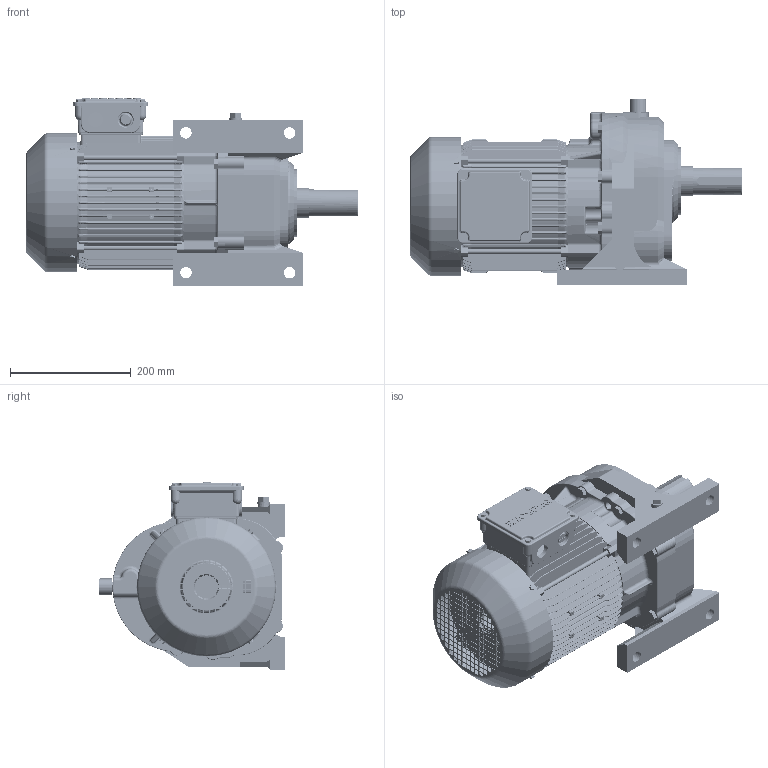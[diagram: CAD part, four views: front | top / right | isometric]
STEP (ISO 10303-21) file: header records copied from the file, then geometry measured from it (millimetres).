
FILE_DESCRIPTION (( 'STEP AP214' ), '1' );
FILE_NAME ('EK2DO100752H0001_F1HA17_3.7KW_R5~20_CUSTOMER.stp', '2024-03-13T05:21:51', ( '' ), ( '' ), 'SwSTEP 2.0', 'SolidWorks 2022', '' );
FILE_SCHEMA (( 'AUTOMOTIVE_DESIGN' ));
Length unit declared in the file: millimetre
Products named in the file (1): EK2DO100752H0001_F1HA17_3.7KW_R5~20_CUSTOMER
Bounding box: 551 x 308 x 312 mm (x, y, z)
Volume: 9958272.9 mm3; surface area: 1408220.7 mm2
Topology: 32 solids, 32 shells, 8651 faces, 21744 edges, 13116 vertices
Faces by surface type: cylinder 2977, bspline 2180, plane 2010, torus 884, cone 366, sphere 234
Entity records: 409875 total; most frequent: CARTESIAN_POINT 120622, ORIENTED_EDGE 43102, DIRECTION 37818, EDGE_CURVE 21551, AXIS2_PLACEMENT_3D 14690, VERTEX_POINT 13108, EDGE_LOOP 9257, UNCERTAINTY_MEASURE_WITH_UNIT 8685
